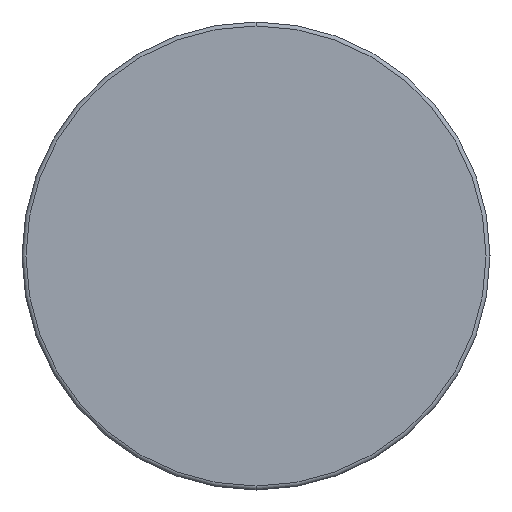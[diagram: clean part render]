
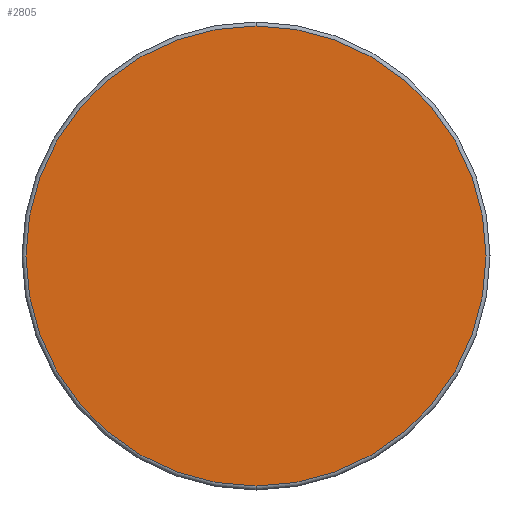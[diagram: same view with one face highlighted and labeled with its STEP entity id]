
A CAD part, front view. The second image highlights one B-rep face of the part: STEP entity #2805.
In plain terms, the highlighted planar face has unit normal (0, -1, 0).
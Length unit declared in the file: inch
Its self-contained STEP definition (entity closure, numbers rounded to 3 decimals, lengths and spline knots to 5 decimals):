
#30 = VERTEX_POINT ( 'NONE', #1951 ) ;
#88 = ORIENTED_EDGE ( 'NONE', *, *, #200, .F. ) ;
#89 = ORIENTED_EDGE ( 'NONE', *, *, #195, .F. ) ;
#195 = EDGE_CURVE ( 'NONE', #30, #244, #791, .T. ) ;
#200 = EDGE_CURVE ( 'NONE', #244, #30, #1890, .T. ) ;
#244 = VERTEX_POINT ( 'NONE', #2401 ) ;
#475 = CARTESIAN_POINT ( 'NONE',  ( 0.45723, 0., 0.08974 ) ) ;
#478 = FACE_OUTER_BOUND ( 'NONE', #1421, .T. ) ;
#479 = PLANE ( 'NONE',  #715 ) ;
#482 = DIRECTION ( 'NONE',  ( 0., 1., 0. ) ) ;
#483 = DIRECTION ( 'NONE',  ( 0., 0., 1. ) ) ;
#715 = AXIS2_PLACEMENT_3D ( 'NONE', #475, #482, #483 ) ;
#791 = CIRCLE ( 'NONE', #1603, 0.58 ) ;
#1421 = EDGE_LOOP ( 'NONE', ( #89, #88 ) ) ;
#1603 = AXIS2_PLACEMENT_3D ( 'NONE', #2260, #2261, #2262 ) ;
#1890 = CIRCLE ( 'NONE', #1894, 0.58 ) ;
#1894 = AXIS2_PLACEMENT_3D ( 'NONE', #2275, #2276, #2277 ) ;
#1951 = CARTESIAN_POINT ( 'NONE',  ( -0.12277, 0., 0.66974 ) ) ;
#2260 = CARTESIAN_POINT ( 'NONE',  ( -0.12277, 0., 0.08974 ) ) ;
#2261 = DIRECTION ( 'NONE',  ( 0., 1., 0. ) ) ;
#2262 = DIRECTION ( 'NONE',  ( 0., 0., 1. ) ) ;
#2275 = CARTESIAN_POINT ( 'NONE',  ( -0.12277, 0., 0.08974 ) ) ;
#2276 = DIRECTION ( 'NONE',  ( 0., 1., 0. ) ) ;
#2277 = DIRECTION ( 'NONE',  ( 0., 0., 1. ) ) ;
#2401 = CARTESIAN_POINT ( 'NONE',  ( -0.12277, 0., -0.49026 ) ) ;
#2805 = ADVANCED_FACE ( 'NONE', ( #478 ), #479, .F. ) ;
